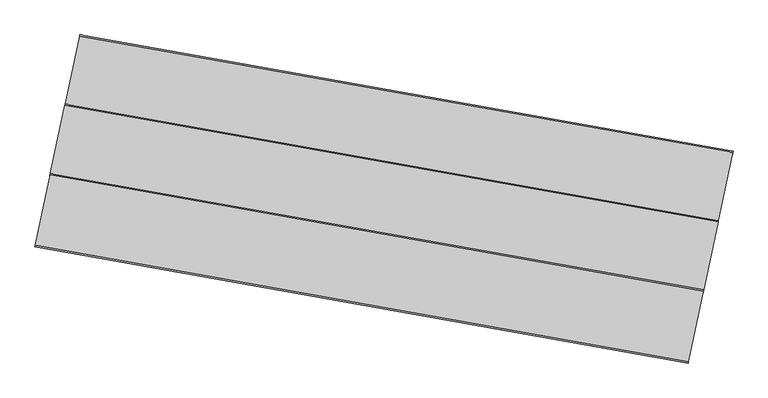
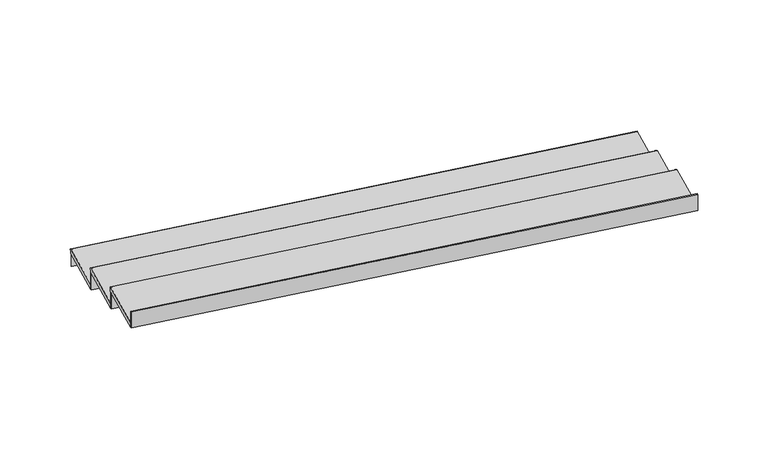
"""IFC4 building model written with IfcOpenShell, lengths in millimetres: stair flight geometry, Wood Steps with 50 mm Tread 20 mm Nosing 13 mm Riser."""

from ifc_helpers import new_model, si_unit, frame, origin, place, context, project, spatial, ellipse_curve, faceted_brep, source, transform, mapped, element, save
from ifc_brep_helpers import plane_surface, cylinder_surface, advanced_brep


def stair_flight_9cf205dd(model_context):
    return source(origin(), model_context, "Body", "SolidModel", [
        advanced_brep(
        [(964350.1703085, 20106.1743968, 7359.2941176), (964350.1703085, 20106.1743968, 7379.2941176), (969774.7565565, 19140.2690874, 7379.2941176), (969774.7565565, 19140.2690874, 7359.2941176), (969650.1001641, 18554.6422534, 7379.2941176), (964225.5139161, 19520.5475628, 7379.2941176), (969774.7565565, 19140.2690874, 7329.2941176), (969650.1001641, 18554.6422534, 7329.2941176), (964225.5139161, 19520.5475628, 7329.2941176), (964350.1703085, 20106.1743968, 7329.2941176)],
        [
            (0, 1, ellipse_curve(frame((964350.1703085, 20106.1743968, 7369.2941176), z_axis=(0.9780872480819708, -0.2081954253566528, 0.0), x_axis=(-0.20819542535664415, -0.9780872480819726, 0.0)), 10.0056192, 10.0)),
            (1, 2),
            (2, 3, ellipse_curve(frame((969774.7565565, 19140.2690874, 7369.2941176), z_axis=(-0.9780872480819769, 0.20819542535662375, 0.0), x_axis=(-0.20819542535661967, -0.9780872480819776, 0.0)), 10.0056192, 10.0)),
            (3, 0),
            (4, 2),
            (1, 5),
            (5, 4),
            (6, 7),
            (7, 8),
            (8, 9),
            (9, 6),
            (4, 7),
            (6, 3),
            (9, 0),
            (8, 5),
        ],
        [
            cylinder_surface(frame((964350.1703085, 20106.1743968, 7369.2941176), z_axis=(-0.9845144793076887, 0.1753032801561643, 0.0), x_axis=(-0.1753032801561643, -0.9845144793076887, 0.0)), 10.0),
            plane_surface(frame((972638.5035593, 32593.9481027, 7379.2941176), z_axis=(0.0, 0.0, 1.0), x_axis=(0.20819542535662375, 0.9780872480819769, 0.0))),
            plane_surface(frame((972638.5035593, 32593.9481027, 7329.2941176), z_axis=(0.0, 0.0, -1.0), x_axis=(-0.20819542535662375, -0.9780872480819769, 0.0))),
            plane_surface(frame((969650.1001641, 18554.6422534, 7379.2941176), z_axis=(0.9780872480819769, -0.20819542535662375, 0.0), x_axis=(0.0, 0.0, -1.0))),
            plane_surface(frame((969774.7565565, 19140.2690874, 7379.2941176), z_axis=(0.1753032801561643, 0.9845144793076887, 0.0), x_axis=(0.0, 0.0, -1.0))),
            plane_surface(frame((964350.1703085, 20106.1743968, 7379.2941176), z_axis=(-0.9780872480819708, 0.2081954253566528, 0.0), x_axis=(0.0, 0.0, -1.0))),
            plane_surface(frame((964225.5139161, 19520.5475628, 7379.2941176), z_axis=(-0.17530328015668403, -0.9845144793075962, 0.0), x_axis=(0.0, 0.0, -1.0))),
        ],
        [
            (0, [[1, 2, 3, 4]]),
            (1, [[5, -2, 6, 7]]),
            (2, [[8, 9, 10, 11]]),
            (3, [[-5, 12, -8, 13, -3]]),
            (4, [[-11, 14, -4, -13]]),
            (5, [[-6, -1, -14, -10, 15]]),
            (6, [[-7, -15, -9, -12]]),
        ],
    ),
        faceted_brep([(964348.0871843, 20096.3880283, 7329.2941176), (964348.0871843, 20096.3880283, 7200.0), (964345.4832791, 20084.1550676, 7200.0), (964345.4832791, 20084.1550676, 7329.2941176), (969772.6734324, 19130.4827189, 7329.2941176), (969770.0695272, 19118.2497582, 7329.2941176), (969770.0695272, 19118.2497582, 7200.0), (969772.6734324, 19130.4827189, 7200.0)], [[[0, 1, 2, 3]], [[4, 5, 6, 7]], [[1, 0, 4, 7]], [[2, 1, 7, 6]], [[3, 2, 6, 5]], [[0, 3, 5, 4]]]),
        faceted_brep([(964225.5139161, 19520.5475628, 7508.5882353), (964225.5139161, 19520.5475628, 7329.2941176), (964222.9100109, 19508.3146022, 7329.2941176), (964222.9100109, 19508.3146022, 7508.5882353), (969650.1001641, 18554.6422534, 7508.5882353), (969647.4962589, 18542.4092928, 7508.5882353), (969647.4962589, 18542.4092928, 7329.2941176), (969650.1001641, 18554.6422534, 7329.2941176)], [[[0, 1, 2, 3]], [[4, 5, 6, 7]], [[1, 0, 4, 7]], [[2, 1, 7, 6]], [[3, 2, 6, 5]], [[0, 3, 5, 4]]]),
        advanced_brep(
        [(969527.5268958, 17978.801788, 7558.5882353), (969652.1832882, 18564.4286219, 7558.5882353), (964227.5970402, 19530.3339314, 7558.5882353), (964102.9406478, 18944.7070974, 7558.5882353), (969652.1832882, 18564.4286219, 7508.5882353), (969527.5268958, 17978.801788, 7508.5882353), (964102.9406478, 18944.7070974, 7508.5882353), (964227.5970402, 19530.3339314, 7508.5882353), (969652.1832882, 18564.4286219, 7538.5882353), (964227.5970402, 19530.3339314, 7538.5882353)],
        [
            (0, 1),
            (1, 2),
            (2, 3),
            (3, 0),
            (4, 5),
            (5, 6),
            (6, 7),
            (7, 4),
            (0, 5),
            (4, 8),
            (8, 1, ellipse_curve(frame((969652.1832882, 18564.4286219, 7548.5882353), z_axis=(0.9780872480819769, -0.20819542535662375, 0.0), x_axis=(-0.2081954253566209, -0.9780872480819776, 0.0)), 10.0056192, 10.0)),
            (7, 9),
            (9, 8),
            (2, 9, ellipse_curve(frame((964227.5970402, 19530.3339314, 7548.5882353), z_axis=(-0.9780872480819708, 0.2081954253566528, 0.0), x_axis=(-0.20819542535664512, -0.9780872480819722, 0.0)), 10.0056192, 10.0)),
            (6, 3),
        ],
        [
            plane_surface(frame((972638.5035593, 32593.9481027, 7558.5882353), z_axis=(0.0, 0.0, 1.0), x_axis=(0.20819542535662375, 0.9780872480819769, 0.0))),
            plane_surface(frame((972638.5035593, 32593.9481027, 7508.5882353), z_axis=(0.0, 0.0, -1.0), x_axis=(-0.20819542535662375, -0.9780872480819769, 0.0))),
            plane_surface(frame((969527.5268958, 17978.801788, 7558.5882353), z_axis=(0.9780872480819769, -0.20819542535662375, 0.0), x_axis=(0.0, 0.0, -1.0))),
            plane_surface(frame((969652.1832882, 18564.4286219, 7558.5882353), z_axis=(0.17530328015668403, 0.9845144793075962, 0.0), x_axis=(0.0, 0.0, -1.0))),
            plane_surface(frame((964227.5970402, 19530.3339314, 7558.5882353), z_axis=(-0.9780872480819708, 0.2081954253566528, 0.0), x_axis=(0.0, 0.0, -1.0))),
            plane_surface(frame((964102.9406478, 18944.7070974, 7558.5882353), z_axis=(-0.17530328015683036, -0.9845144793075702, 0.0), x_axis=(0.0, 0.0, -1.0))),
            cylinder_surface(frame((964227.5970402, 19530.3339314, 7548.5882353), z_axis=(-0.9845144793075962, 0.17530328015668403, 0.0), x_axis=(-0.17530328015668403, -0.9845144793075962, 0.0)), 10.0),
        ],
        [
            (0, [[1, 2, 3, 4]]),
            (1, [[5, 6, 7, 8]]),
            (2, [[-1, 9, -5, 10, 11]]),
            (3, [[-8, 12, 13, -10]]),
            (4, [[-3, 14, -12, -7, 15]]),
            (5, [[-4, -15, -6, -9]]),
            (6, [[-14, -2, -11, -13]]),
        ],
    ),
        faceted_brep([(964102.9406478, 18944.7070974, 7687.8823529), (964102.9406478, 18944.7070974, 7508.5882353), (964100.3367426, 18932.4741368, 7508.5882353), (964100.3367426, 18932.4741368, 7687.8823529), (969527.5268958, 17978.801788, 7687.8823529), (969524.9229907, 17966.5688273, 7687.8823529), (969524.9229907, 17966.5688273, 7508.5882353), (969527.5268958, 17978.801788, 7508.5882353)], [[[0, 1, 2, 3]], [[4, 5, 6, 7]], [[1, 0, 4, 7]], [[2, 1, 7, 6]], [[3, 2, 6, 5]], [[0, 3, 5, 4]]]),
        faceted_brep([(963980.3673795, 18368.866632, 7867.1764706), (963980.3673795, 18368.866632, 7687.8823529), (963977.7634744, 18356.6336713, 7687.8823529), (963977.7634744, 18356.6336713, 7867.1764706), (969404.9536276, 17402.9613225, 7867.1764706), (969402.3497224, 17390.7283619, 7867.1764706), (969402.3497224, 17390.7283619, 7687.8823529), (969404.9536276, 17402.9613225, 7687.8823529)], [[[0, 1, 2, 3]], [[4, 5, 6, 7]], [[1, 0, 4, 7]], [[2, 1, 7, 6]], [[3, 2, 6, 5]], [[0, 3, 5, 4]]]),
        advanced_brep(
        [(969404.9536276, 17402.9613225, 7737.8823529), (969529.61002, 17988.5881565, 7737.8823529), (964105.0237719, 18954.4934659, 7737.8823529), (963980.3673795, 18368.866632, 7737.8823529), (969529.61002, 17988.5881565, 7687.8823529), (969404.9536276, 17402.9613225, 7687.8823529), (963980.3673795, 18368.866632, 7687.8823529), (964105.0237719, 18954.4934659, 7687.8823529), (969529.61002, 17988.5881565, 7717.8823529), (964105.0237719, 18954.4934659, 7717.8823529)],
        [
            (0, 1),
            (1, 2),
            (2, 3),
            (3, 0),
            (4, 5),
            (5, 6),
            (6, 7),
            (7, 4),
            (0, 5),
            (4, 8),
            (8, 1, ellipse_curve(frame((969529.61002, 17988.5881565, 7727.8823529), z_axis=(0.9780872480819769, -0.20819542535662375, 0.0), x_axis=(-0.2081954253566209, -0.9780872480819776, 0.0)), 10.0056192, 10.0)),
            (7, 9),
            (9, 8),
            (2, 9, ellipse_curve(frame((964105.0237719, 18954.4934659, 7727.8823529), z_axis=(-0.9780872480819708, 0.2081954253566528, 0.0), x_axis=(-0.20819542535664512, -0.9780872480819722, 0.0)), 10.0056192, 10.0)),
            (6, 3),
        ],
        [
            plane_surface(frame((972515.9302911, 32018.1076373, 7737.8823529), z_axis=(0.0, 0.0, 1.0), x_axis=(0.20819542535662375, 0.9780872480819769, 0.0))),
            plane_surface(frame((972515.9302911, 32018.1076373, 7687.8823529), z_axis=(0.0, 0.0, -1.0), x_axis=(-0.20819542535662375, -0.9780872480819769, 0.0))),
            plane_surface(frame((969404.9536276, 17402.9613225, 7737.8823529), z_axis=(0.9780872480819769, -0.20819542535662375, 0.0), x_axis=(0.0, 0.0, -1.0))),
            plane_surface(frame((969529.61002, 17988.5881565, 7737.8823529), z_axis=(0.17530328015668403, 0.9845144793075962, 0.0), x_axis=(0.0, 0.0, -1.0))),
            plane_surface(frame((964105.0237719, 18954.4934659, 7737.8823529), z_axis=(-0.9780872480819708, 0.2081954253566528, 0.0), x_axis=(0.0, 0.0, -1.0))),
            plane_surface(frame((963980.3673795, 18368.866632, 7737.8823529), z_axis=(-0.17530328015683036, -0.9845144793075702, 0.0), x_axis=(0.0, 0.0, -1.0))),
            cylinder_surface(frame((964105.0237719, 18954.4934659, 7727.8823529), z_axis=(-0.9845144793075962, 0.17530328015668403, 0.0), x_axis=(-0.17530328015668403, -0.9845144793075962, 0.0)), 10.0),
        ],
        [
            (0, [[1, 2, 3, 4]]),
            (1, [[5, 6, 7, 8]]),
            (2, [[-1, 9, -5, 10, 11]]),
            (3, [[-8, 12, 13, -10]]),
            (4, [[-3, 14, -12, -7, 15]]),
            (5, [[-4, -15, -6, -9]]),
            (6, [[-14, -2, -11, -13]]),
        ],
    ),
    ])


if __name__ == "__main__":
    model = new_model("IFC4")
    model_context = context("Model", 3, world=origin())
    ifc_project = project(units=[si_unit("LENGTHUNIT", "METRE", prefix="MILLI")], contexts=[model_context])
    site = spatial("IfcSite", under=ifc_project)
    building = spatial("IfcBuilding", under=site)
    placement = place(None, origin())
    stair_flight_shape = stair_flight_9cf205dd(model_context)
    element("IfcStairFlight", 1, ObjectType="Wood Steps with 50 mm Tread 20 mm Nosing 13 mm Riser", at=placement, inside=building, context=model_context, shape_type="MappedRepresentation", body=[
        mapped(stair_flight_shape, transform((0.0, 0.0, 0.0), x_axis=(1.0, 0.0, 0.0), y_axis=(0.0, 1.0, 0.0), z_axis=(0.0, 0.0, 1.0))),
    ])
    save(model, "model.ifc")
